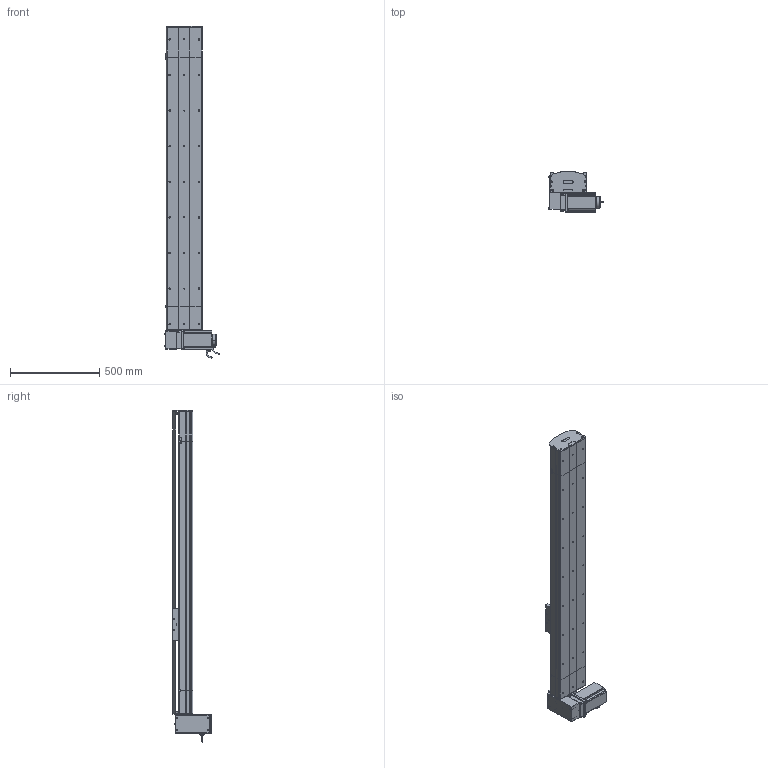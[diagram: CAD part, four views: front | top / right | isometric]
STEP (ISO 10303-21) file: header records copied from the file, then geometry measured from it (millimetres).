
FILE_DESCRIPTION (( 'STEP AP214' ), '1' );
FILE_NAME ('D20 TBH RU S1400.STEP', '2010-07-01T07:18:56', ( 'Conseil Régional Haute-Normandie' ), ( 'Conseil Régional Haute-Normandie' ), 'SwSTEP 2.0', 'SolidWorks 2010', '' );
FILE_SCHEMA (( 'AUTOMOTIVE_DESIGN' ));
Length unit declared in the file: millimetre
Products named in the file (40): Couroie tail D20_Default; rail head D20; corpl head D20_Default; head RU_Default; rail + couroie  D20 S1400; plaque de  bout tail D20_Default; poulie tail D20_Default; corpl tail D20_Default; tail D20_Default; vis M8 L12_Default; clavette; Conecteur_Default; Conecteur2_Default; codeur 110BLDC170A-630x; vis M5 L70_Default; Plaque racord D20LH_Default; Renvoi RU D20_Default; corps 110BLDC170A-630x; avant 110BLDC170A-630x; Moteur motionking 110BLDC170A-640x; vis M5 L5_Default; couroie_Default; cache D20_Default; cache arbre D20_Default; plaque de  bout head D20B RU_Default; couvercle head D20_Default; poulie head D20_Default; couvercle tail D20_Default; rail tail D20; tete d''axe poulie D20B; vis M5 L8 90°_Default; vis M5 L25_Default; vis M5 L12_Default; guide D20B; Chariot D20B; chariot D20B_Default; D20 TBH RU S1400; couvercle D20 S1400_Default; corp D20 S1400_Default; Course B L1400_Default
Assembly tree (71 placements, depth 4):
  D20 TBH RU S1400
    chariot D20B_Default
      vis M5 L12_Default  x4
      Chariot D20B
      guide D20B  x2
    head RU_Default
      vis M8 L12_Default  x4
      plaque de  bout head D20B RU_Default
      vis M5 L12_Default  x10
      vis M5 L25_Default  x2
      vis M5 L5_Default  x4
      cache arbre D20_Default
      rail head D20
      Moteur motionking 110BLDC170A-640x
        codeur 110BLDC170A-630x
        corps 110BLDC170A-630x
        Conecteur2_Default
        avant 110BLDC170A-630x
        clavette
        Conecteur_Default
      Renvoi RU D20_Default
      vis M5 L70_Default  x4
      Plaque racord D20LH_Default
      cache D20_Default  x2
      couvercle head D20_Default
      poulie head D20_Default
      couroie_Default
      corpl head D20_Default
    Course B L1400_Default
      rail + couroie  D20 S1400
      couvercle D20 S1400_Default
      corp D20 S1400_Default
    tail D20_Default
      couvercle tail D20_Default
      plaque de  bout tail D20_Default
      vis M5 L12_Default  x4
      vis M5 L25_Default  x2
      poulie tail D20_Default
      tete d''axe poulie D20B
      vis M5 L8 90°_Default  x2
      rail tail D20
      Couroie tail D20_Default
      corpl tail D20_Default
Bounding box: 304.2 x 223.2 x 1865 mm (x, y, z)
Volume: 16155749.6 mm3; surface area: 3807160.4 mm2
Topology: 95 solids, 95 shells, 2726 faces, 6858 edges, 4423 vertices
Faces by surface type: plane 1617, cylinder 785, bspline 136, cone 99, torus 89
Entity records: 85253 total; most frequent: CARTESIAN_POINT 27147, ORIENTED_EDGE 10372, DIRECTION 9827, EDGE_CURVE 5186, VERTEX_POINT 3409, VECTOR 3397, LINE 3397, AXIS2_PLACEMENT_3D 3215
